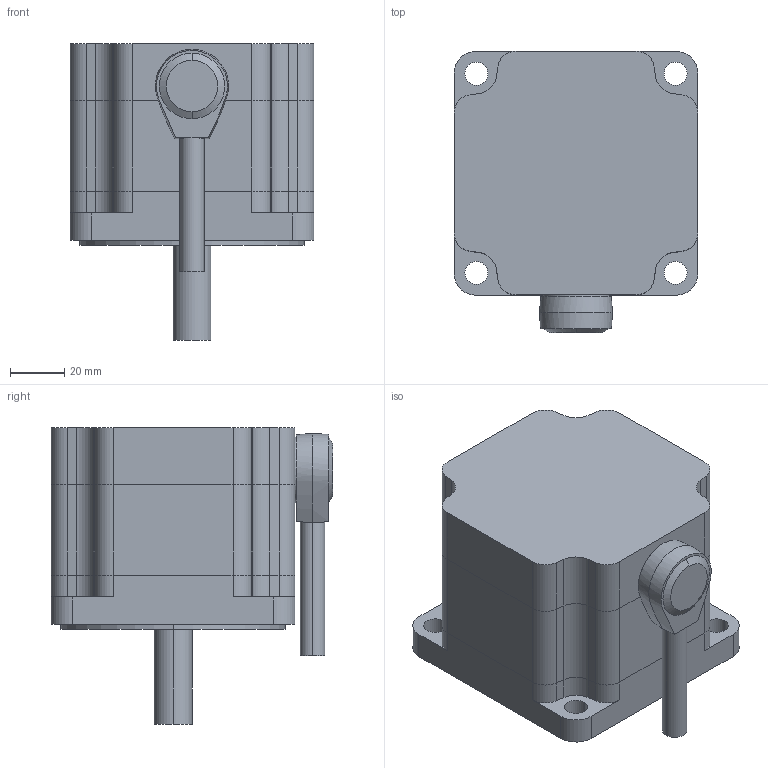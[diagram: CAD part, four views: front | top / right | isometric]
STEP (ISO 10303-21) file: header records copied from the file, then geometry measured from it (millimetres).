
FILE_DESCRIPTION (( 'STEP AP203' ), '1' );
FILE_NAME ('A1859_F.step', '2022-06-13T01:38:06', ( '' ), ( '' ), 'SwSTEP 2.0', 'SolidWorks 2020', '' );
FILE_SCHEMA (( 'CONFIG_CONTROL_DESIGN' ));
Length unit declared in the file: millimetre
Products named in the file (1): A1859_F
Bounding box: 90 x 104 x 109.5 mm (x, y, z)
Volume: 547619.5 mm3; surface area: 45330.3 mm2
Topology: 1 solids, 1 shells, 113 faces, 270 edges, 164 vertices
Faces by surface type: cylinder 58, plane 51, cone 2, bspline 2
Entity records: 3496 total; most frequent: CARTESIAN_POINT 726, DIRECTION 591, ORIENTED_EDGE 540, EDGE_CURVE 270, AXIS2_PLACEMENT_3D 213, LINE 165, VECTOR 165, VERTEX_POINT 164
